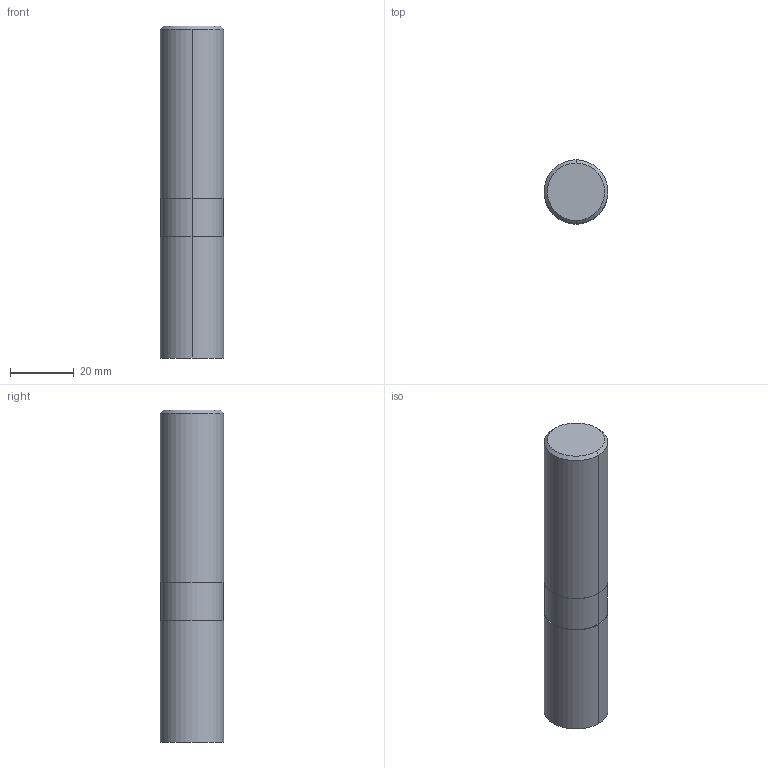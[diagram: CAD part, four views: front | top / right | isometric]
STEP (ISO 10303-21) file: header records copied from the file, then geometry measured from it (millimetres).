
FILE_DESCRIPTION((''),'2;1');
FILE_NAME('DIN4003_82_HEURO','2016-04-11T',('automc'),(''),'PRO/ENGINEER BY PARAMETRIC TECHNOLOGY CORPORATION, 2015280','PRO/ENGINEER BY PARAMETRIC TECHNOLOGY CORPORATION, 2015280','');
FILE_SCHEMA(('AUTOMOTIVE_DESIGN { 1 0 10303 214 1 1 1 1 }'));
Length unit declared in the file: millimetre
Products named in the file (1): DIN4003_82_HEURO
Bounding box: 20 x 20 x 104 mm (x, y, z)
Volume: 32456.2 mm3; surface area: 7136.9 mm2
Topology: 1 solids, 1 shells, 12 faces, 24 edges, 17 vertices
Faces by surface type: bspline 12
Entity records: 704 total; most frequent: CARTESIAN_POINT 219, DIRECTION 68, ORIENTED_EDGE 44, AXIS2_PLACEMENT_3D 26, PRESENTATION_STYLE_ASSIGNMENT 23, STYLED_ITEM 23, EDGE_CURVE 22, VECTOR 16
